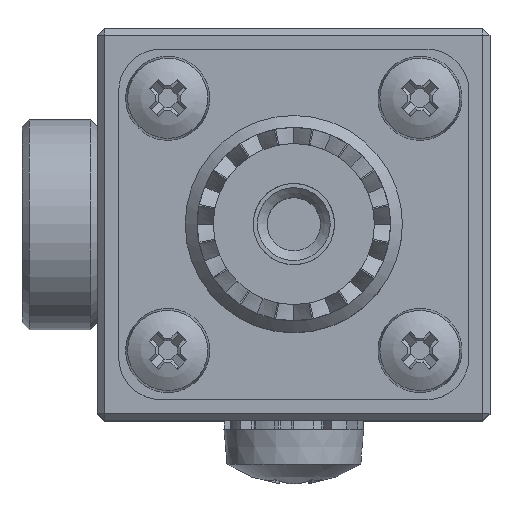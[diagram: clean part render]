
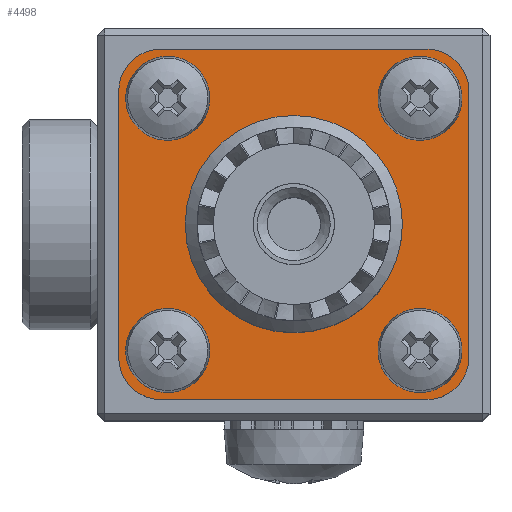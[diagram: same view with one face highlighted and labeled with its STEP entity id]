
A CAD part, top view. The second image highlights one B-rep face of the part: STEP entity #4498.
In plain terms, the highlighted planar face has unit normal (0, 0, 1) as drawn and (0, 0, -1) by its records, which use the part's own axes.
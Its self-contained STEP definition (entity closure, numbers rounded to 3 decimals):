
#482=LINE('',#8436,#756);
#483=LINE('',#8440,#757);
#484=LINE('',#8444,#758);
#485=LINE('',#8447,#759);
#756=VECTOR('',#6157,19.);
#757=VECTOR('',#6160,19.);
#758=VECTOR('',#6163,19.);
#759=VECTOR('',#6166,19.);
#892=PLANE('',#4972);
#958=FACE_BOUND('',#1529,.T.);
#959=FACE_BOUND('',#1530,.T.);
#960=FACE_BOUND('',#1531,.T.);
#961=FACE_BOUND('',#1532,.T.);
#962=FACE_BOUND('',#1533,.T.);
#1208=FACE_OUTER_BOUND('',#1528,.T.);
#1528=EDGE_LOOP('',(#3919,#3920,#3921,#3922,#3923,#3924,#3925,#3926));
#1529=EDGE_LOOP('',(#3927));
#1530=EDGE_LOOP('',(#3928));
#1531=EDGE_LOOP('',(#3929));
#1532=EDGE_LOOP('',(#3930));
#1533=EDGE_LOOP('',(#3931));
#1800=CIRCLE('',#4955,7.75);
#1807=CIRCLE('',#4970,3.);
#1809=CIRCLE('',#4973,3.);
#1810=CIRCLE('',#4974,3.);
#1811=CIRCLE('',#4975,3.);
#1812=CIRCLE('',#4976,1.75);
#1813=CIRCLE('',#4977,1.75);
#1814=CIRCLE('',#4978,1.75);
#1815=CIRCLE('',#4979,1.75);
#2174=VERTEX_POINT('',#8404);
#2181=VERTEX_POINT('',#8426);
#2182=VERTEX_POINT('',#8427);
#2185=VERTEX_POINT('',#8435);
#2186=VERTEX_POINT('',#8437);
#2187=VERTEX_POINT('',#8439);
#2188=VERTEX_POINT('',#8441);
#2189=VERTEX_POINT('',#8443);
#2190=VERTEX_POINT('',#8445);
#2191=VERTEX_POINT('',#8448);
#2192=VERTEX_POINT('',#8450);
#2193=VERTEX_POINT('',#8452);
#2194=VERTEX_POINT('',#8454);
#2770=EDGE_CURVE('',#2174,#2174,#1800,.T.);
#2777=EDGE_CURVE('',#2181,#2182,#1807,.T.);
#2781=EDGE_CURVE('',#2181,#2185,#482,.T.);
#2782=EDGE_CURVE('',#2186,#2185,#1809,.T.);
#2783=EDGE_CURVE('',#2186,#2187,#483,.T.);
#2784=EDGE_CURVE('',#2188,#2187,#1810,.T.);
#2785=EDGE_CURVE('',#2188,#2189,#484,.T.);
#2786=EDGE_CURVE('',#2190,#2189,#1811,.T.);
#2787=EDGE_CURVE('',#2190,#2182,#485,.T.);
#2788=EDGE_CURVE('',#2191,#2191,#1812,.T.);
#2789=EDGE_CURVE('',#2192,#2192,#1813,.T.);
#2790=EDGE_CURVE('',#2193,#2193,#1814,.T.);
#2791=EDGE_CURVE('',#2194,#2194,#1815,.T.);
#3919=ORIENTED_EDGE('',*,*,#2777,.F.);
#3920=ORIENTED_EDGE('',*,*,#2781,.T.);
#3921=ORIENTED_EDGE('',*,*,#2782,.F.);
#3922=ORIENTED_EDGE('',*,*,#2783,.T.);
#3923=ORIENTED_EDGE('',*,*,#2784,.F.);
#3924=ORIENTED_EDGE('',*,*,#2785,.T.);
#3925=ORIENTED_EDGE('',*,*,#2786,.F.);
#3926=ORIENTED_EDGE('',*,*,#2787,.T.);
#3927=ORIENTED_EDGE('',*,*,#2770,.T.);
#3928=ORIENTED_EDGE('',*,*,#2788,.T.);
#3929=ORIENTED_EDGE('',*,*,#2789,.T.);
#3930=ORIENTED_EDGE('',*,*,#2790,.T.);
#3931=ORIENTED_EDGE('',*,*,#2791,.T.);
#4498=ADVANCED_FACE('',(#1208,#958,#959,#960,#961,#962),#892,.T.);
#4955=AXIS2_PLACEMENT_3D('',#8405,#6119,#6120);
#4970=AXIS2_PLACEMENT_3D('',#8428,#6149,#6150);
#4972=AXIS2_PLACEMENT_3D('',#8434,#6155,#6156);
#4973=AXIS2_PLACEMENT_3D('',#8438,#6158,#6159);
#4974=AXIS2_PLACEMENT_3D('',#8442,#6161,#6162);
#4975=AXIS2_PLACEMENT_3D('',#8446,#6164,#6165);
#4976=AXIS2_PLACEMENT_3D('',#8449,#6167,#6168);
#4977=AXIS2_PLACEMENT_3D('',#8451,#6169,#6170);
#4978=AXIS2_PLACEMENT_3D('',#8453,#6171,#6172);
#4979=AXIS2_PLACEMENT_3D('',#8455,#6173,#6174);
#6119=DIRECTION('center_axis',(0.,0.,1.));
#6120=DIRECTION('ref_axis',(1.,0.,0.));
#6149=DIRECTION('center_axis',(0.,0.,1.));
#6150=DIRECTION('ref_axis',(-0.707,-0.707,0.));
#6155=DIRECTION('center_axis',(0.,0.,-1.));
#6156=DIRECTION('ref_axis',(-1.,0.,0.));
#6157=DIRECTION('',(0.,1.,0.));
#6158=DIRECTION('center_axis',(0.,0.,1.));
#6159=DIRECTION('ref_axis',(-0.707,0.707,0.));
#6160=DIRECTION('',(1.,0.,0.));
#6161=DIRECTION('center_axis',(0.,0.,1.));
#6162=DIRECTION('ref_axis',(0.707,0.707,0.));
#6163=DIRECTION('',(0.,-1.,0.));
#6164=DIRECTION('center_axis',(0.,0.,1.));
#6165=DIRECTION('ref_axis',(0.707,-0.707,0.));
#6166=DIRECTION('',(-1.,0.,0.));
#6167=DIRECTION('center_axis',(0.,0.,1.));
#6168=DIRECTION('ref_axis',(1.,0.,0.));
#6169=DIRECTION('center_axis',(0.,0.,1.));
#6170=DIRECTION('ref_axis',(1.,0.,0.));
#6171=DIRECTION('center_axis',(0.,0.,1.));
#6172=DIRECTION('ref_axis',(1.,0.,0.));
#6173=DIRECTION('center_axis',(0.,0.,1.));
#6174=DIRECTION('ref_axis',(1.,0.,0.));
#8404=CARTESIAN_POINT('',(-7.75,0.,-1.));
#8405=CARTESIAN_POINT('Origin',(0.,0.,-1.));
#8426=CARTESIAN_POINT('',(-12.5,-9.5,-1.));
#8427=CARTESIAN_POINT('',(-9.5,-12.5,-1.));
#8428=CARTESIAN_POINT('Origin',(-9.5,-9.5,-1.));
#8434=CARTESIAN_POINT('Origin',(0.,0.,-1.));
#8435=CARTESIAN_POINT('',(-12.5,9.5,-1.));
#8436=CARTESIAN_POINT('',(-12.5,-12.5,-1.));
#8437=CARTESIAN_POINT('',(-9.5,12.5,-1.));
#8438=CARTESIAN_POINT('Origin',(-9.5,9.5,-1.));
#8439=CARTESIAN_POINT('',(9.5,12.5,-1.));
#8440=CARTESIAN_POINT('',(-12.5,12.5,-1.));
#8441=CARTESIAN_POINT('',(12.5,9.5,-1.));
#8442=CARTESIAN_POINT('Origin',(9.5,9.5,-1.));
#8443=CARTESIAN_POINT('',(12.5,-9.5,-1.));
#8444=CARTESIAN_POINT('',(12.5,12.5,-1.));
#8445=CARTESIAN_POINT('',(9.5,-12.5,-1.));
#8446=CARTESIAN_POINT('Origin',(9.5,-9.5,-1.));
#8447=CARTESIAN_POINT('',(12.5,-12.5,-1.));
#8448=CARTESIAN_POINT('',(7.25,-9.,-1.));
#8449=CARTESIAN_POINT('Origin',(9.,-9.,-1.));
#8450=CARTESIAN_POINT('',(-10.75,9.,-1.));
#8451=CARTESIAN_POINT('Origin',(-9.,9.,-1.));
#8452=CARTESIAN_POINT('',(7.25,9.,-1.));
#8453=CARTESIAN_POINT('Origin',(9.,9.,-1.));
#8454=CARTESIAN_POINT('',(-10.75,-9.,-1.));
#8455=CARTESIAN_POINT('Origin',(-9.,-9.,-1.));
